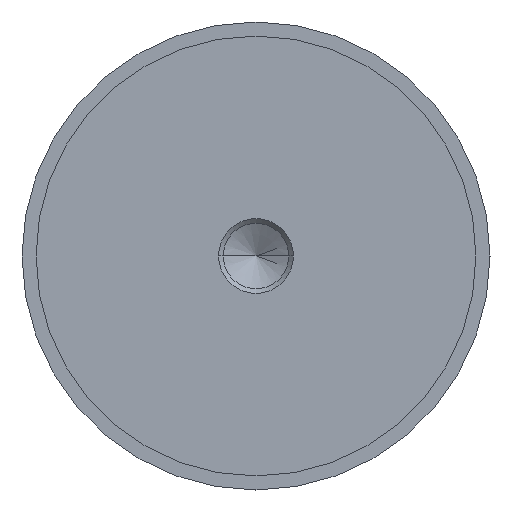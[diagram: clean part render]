
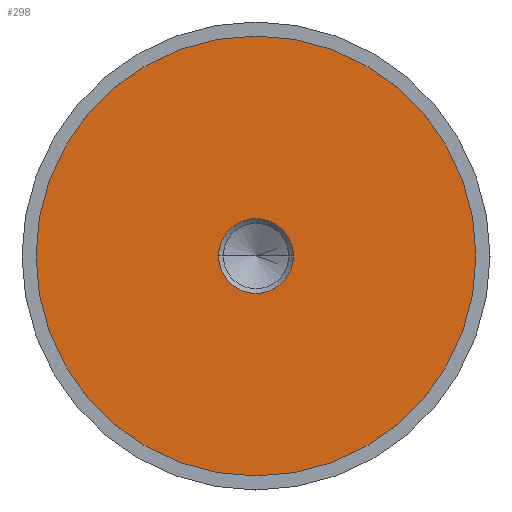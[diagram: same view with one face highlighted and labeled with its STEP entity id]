
A CAD part, left-side view. The second image highlights one B-rep face of the part: STEP entity #298.
In plain terms, the highlighted planar face has unit normal (-1, 0, 0).
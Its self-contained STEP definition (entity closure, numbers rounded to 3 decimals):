
#25 = CIRCLE ( 'NONE', #674, 7.99 ) ;
#64 = PLANE ( 'NONE',  #509 ) ;
#71 = VERTEX_POINT ( 'NONE', #299 ) ;
#78 = CIRCLE ( 'NONE', #789, 47. ) ;
#82 = CIRCLE ( 'NONE', #751, 7.99 ) ;
#107 = DIRECTION ( 'NONE',  ( 0., 0., -1. ) ) ;
#122 = CARTESIAN_POINT ( 'NONE',  ( -19.99, 0., 0. ) ) ;
#138 = VERTEX_POINT ( 'NONE', #233 ) ;
#159 = CIRCLE ( 'NONE', #239, 47. ) ;
#180 = DIRECTION ( 'NONE',  ( 0., 0., 1. ) ) ;
#184 = DIRECTION ( 'NONE',  ( 0., 0., -1. ) ) ;
#213 = VERTEX_POINT ( 'NONE', #387 ) ;
#233 = CARTESIAN_POINT ( 'NONE',  ( -19.99, -7.99, 0. ) ) ;
#239 = AXIS2_PLACEMENT_3D ( 'NONE', #506, #653, #796 ) ;
#243 = DIRECTION ( 'NONE',  ( 1., 0., 0. ) ) ;
#288 = EDGE_CURVE ( 'NONE', #213, #71, #78, .T. ) ;
#298 = ADVANCED_FACE ( 'NONE', ( #660, #741 ), #64, .F. ) ;
#299 = CARTESIAN_POINT ( 'NONE',  ( -19.99, 0., -47. ) ) ;
#320 = ORIENTED_EDGE ( 'NONE', *, *, #788, .T. ) ;
#322 = CARTESIAN_POINT ( 'NONE',  ( -19.99, 47., 0. ) ) ;
#368 = CARTESIAN_POINT ( 'NONE',  ( -19.99, 7.99, 0. ) ) ;
#387 = CARTESIAN_POINT ( 'NONE',  ( -19.99, 0., 47. ) ) ;
#397 = ORIENTED_EDGE ( 'NONE', *, *, #646, .T. ) ;
#448 = ORIENTED_EDGE ( 'NONE', *, *, #846, .T. ) ;
#501 = DIRECTION ( 'NONE',  ( 1., 0., 0. ) ) ;
#506 = CARTESIAN_POINT ( 'NONE',  ( -19.99, 0., 0. ) ) ;
#509 = AXIS2_PLACEMENT_3D ( 'NONE', #322, #243, #671 ) ;
#544 = EDGE_LOOP ( 'NONE', ( #820, #448 ) ) ;
#562 = EDGE_LOOP ( 'NONE', ( #397, #320 ) ) ;
#586 = CARTESIAN_POINT ( 'NONE',  ( -19.99, 0., 0. ) ) ;
#603 = DIRECTION ( 'NONE',  ( 1., 0., 0. ) ) ;
#646 = EDGE_CURVE ( 'NONE', #138, #836, #25, .T. ) ;
#653 = DIRECTION ( 'NONE',  ( -1., 0., 0. ) ) ;
#660 = FACE_BOUND ( 'NONE', #562, .T. ) ;
#671 = DIRECTION ( 'NONE',  ( 0., 0., -1. ) ) ;
#674 = AXIS2_PLACEMENT_3D ( 'NONE', #744, #603, #184 ) ;
#678 = DIRECTION ( 'NONE',  ( -1., 0., 0. ) ) ;
#741 = FACE_OUTER_BOUND ( 'NONE', #544, .T. ) ;
#744 = CARTESIAN_POINT ( 'NONE',  ( -19.99, 0., 0. ) ) ;
#751 = AXIS2_PLACEMENT_3D ( 'NONE', #586, #501, #107 ) ;
#788 = EDGE_CURVE ( 'NONE', #836, #138, #82, .T. ) ;
#789 = AXIS2_PLACEMENT_3D ( 'NONE', #122, #678, #180 ) ;
#796 = DIRECTION ( 'NONE',  ( 0., 0., 1. ) ) ;
#820 = ORIENTED_EDGE ( 'NONE', *, *, #288, .T. ) ;
#836 = VERTEX_POINT ( 'NONE', #368 ) ;
#846 = EDGE_CURVE ( 'NONE', #71, #213, #159, .T. ) ;
